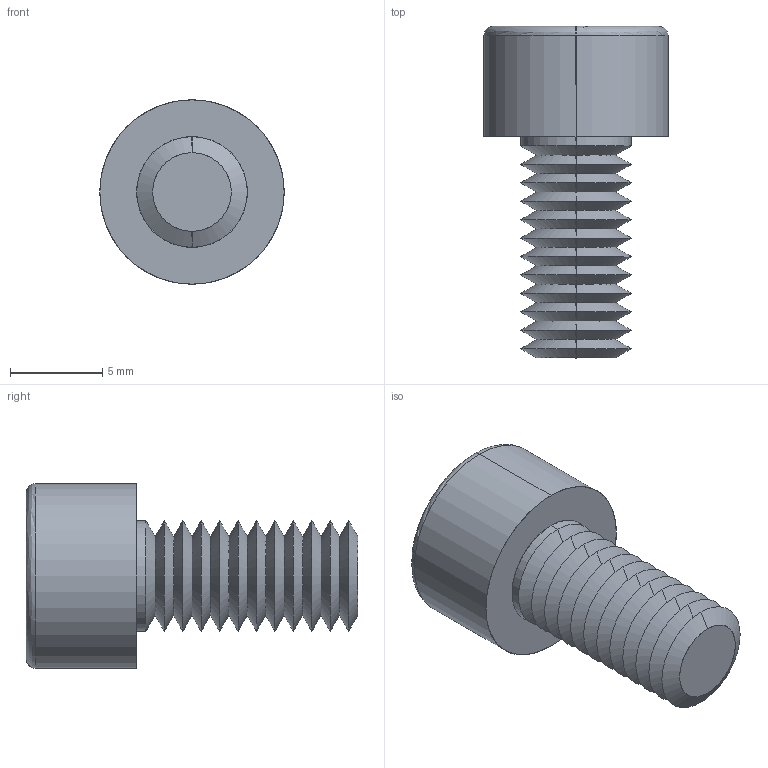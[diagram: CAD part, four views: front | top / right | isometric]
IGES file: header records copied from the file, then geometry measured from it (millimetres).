
Start section: SolidWorks IGES file using analytic representation for surfaces
Global section: file name: C:\Users\ianosborn\Desktop\N0007.91N_v2\N0007.91N_v2_20250519_IGES\91N.060.0120.igs; native system: SolidWorks 2019; preprocessor: SolidWorks 2019; author: IanOsborn; date: 250520.095242; units: millimetre
Bounding box: 10 x 18 x 10 mm (x, y, z)
Surface area: 793.8 mm2 (no closed solid volume)
Topology: 0 solids, 0 shells, 76 faces, 501 edges, 499 vertices
Faces by surface type: revolution 59, bspline 17
